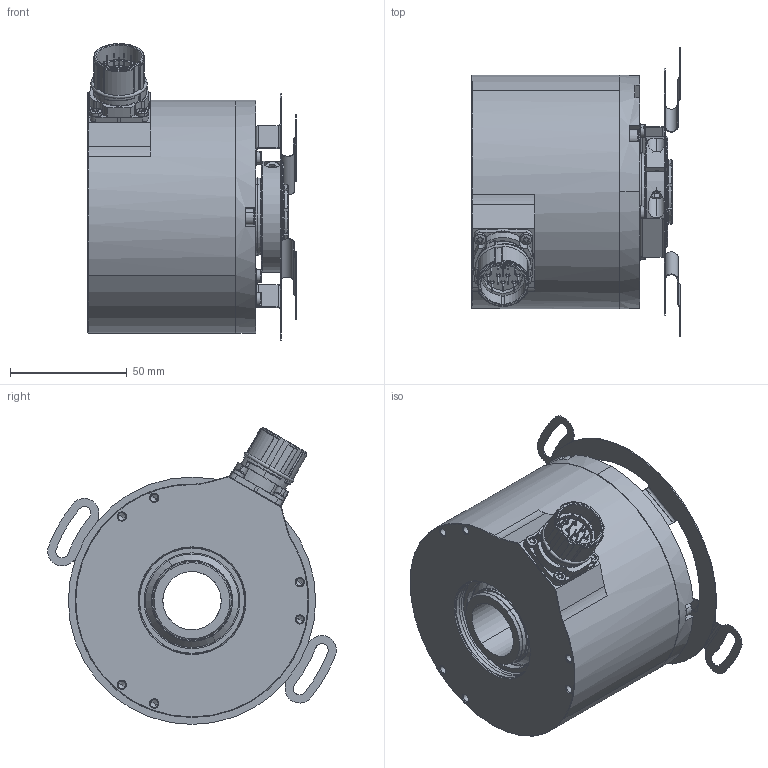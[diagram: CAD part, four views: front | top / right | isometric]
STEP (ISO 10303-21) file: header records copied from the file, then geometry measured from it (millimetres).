
FILE_DESCRIPTION (( 'STEP AP214' ), '1' );
FILE_NAME ('8.H120.55XD.XXXX.STEP', '2014-08-14T11:59:33', ( 'HeirlerN' ), ( 'Microsoft' ), 'SwSTEP 2.0', 'SolidWorks 2013', '' );
FILE_SCHEMA (( 'AUTOMOTIVE_DESIGN' ));
Length unit declared in the file: millimetre
Products named in the file (1): 8.H120.55XD.XXXX
Bounding box: 89.5 x 123.71 x 127.19 mm (x, y, z)
Volume: 285299.4 mm3; surface area: 157441.9 mm2
Topology: 48 solids, 48 shells, 1688 faces, 4028 edges, 2439 vertices
Faces by surface type: cylinder 746, plane 384, cone 296, bspline 113, torus 93, sphere 56
Entity records: 69321 total; most frequent: CARTESIAN_POINT 10741, DIRECTION 9027, ORIENTED_EDGE 7768, EDGE_CURVE 3884, AXIS2_PLACEMENT_3D 3750, VERTEX_POINT 2431, CIRCLE 2174, EDGE_LOOP 1925
